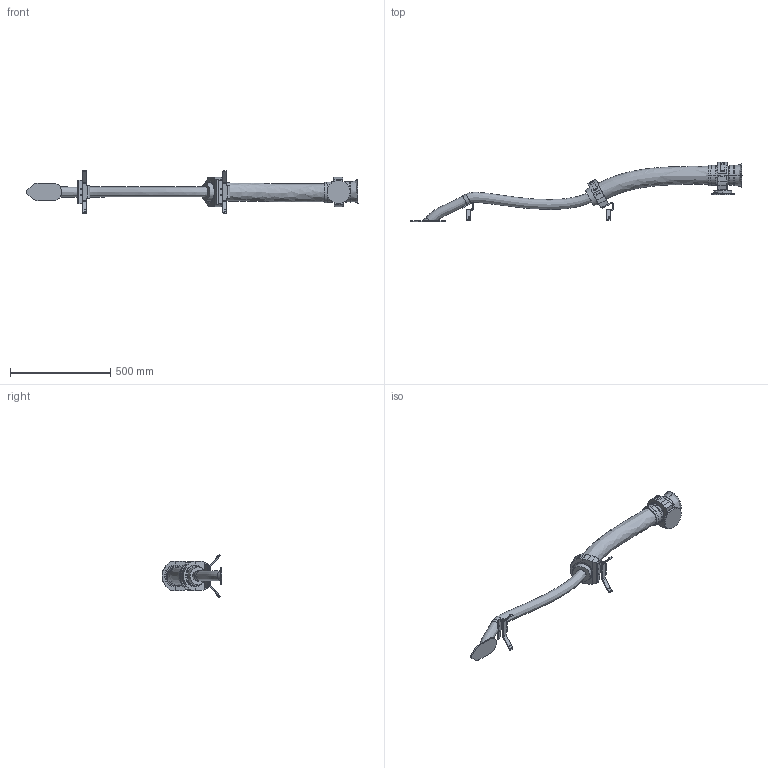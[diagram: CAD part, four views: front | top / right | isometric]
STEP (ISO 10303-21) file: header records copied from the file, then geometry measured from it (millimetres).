
FILE_DESCRIPTION (( 'STEP AP214' ), '1' );
FILE_NAME ('IRB77X0-LID_All-350_OC_01_LINK04_CABLE.step', '2026-01-28T09:36:44', ( '' ), ( '' ), 'SwSTEP 2.0', 'SolidWorks 2024', '' );
FILE_SCHEMA (( 'AUTOMOTIVE_DESIGN' ));
Length unit declared in the file: millimetre
Products named in the file (1): IRB77X0-LID_All-350_OC_01_LINK04_CABLE
Bounding box: 1656.81 x 298.27 x 213.34 mm (x, y, z)
Volume: 8133665.3 mm3; surface area: 562860.4 mm2
Topology: 1 solids, 2 shells, 456 faces, 1142 edges, 722 vertices
Faces by surface type: plane 242, cylinder 157, sphere 22, cone 20, bspline 13, torus 2
Full cylindrical faces by diameter (mm): 10 x2, 15 x2, 90 x2
Entity records: 22409 total; most frequent: CARTESIAN_POINT 6508, DIRECTION 2293, ORIENTED_EDGE 2254, EDGE_CURVE 1127, AXIS2_PLACEMENT_3D 853, VERTEX_POINT 716, VECTOR 587, LINE 587
